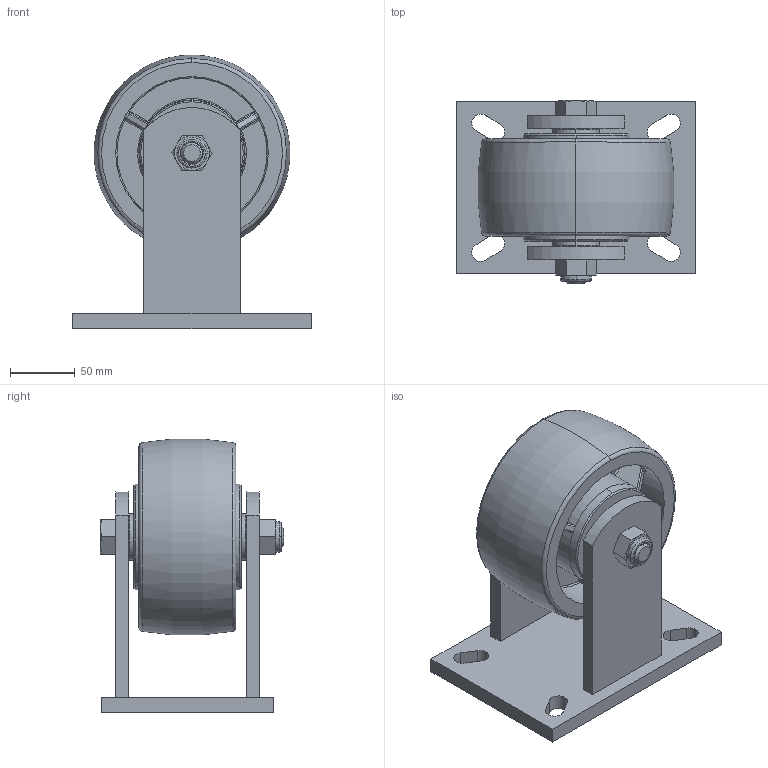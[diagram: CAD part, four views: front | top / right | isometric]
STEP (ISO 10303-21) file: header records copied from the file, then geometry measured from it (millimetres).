
FILE_DESCRIPTION (( 'STEP AP214' ), '1' );
FILE_NAME ('93106-936-26 ¶¨Ïò.STEP', '2019-12-26T04:52:59', ( 'Owner' ), ( 'Organization' ), 'SwSTEP 2.0', 'SolidWorks 2014', '' );
FILE_SCHEMA (( 'AUTOMOTIVE_DESIGN' ));
Length unit declared in the file: millimetre
Products named in the file (6): 936-86T; 930c00 隅殤侐源; 936c10; 930-34; 930-33; 93106-936-26 隅砃
Assembly tree (6 placements, depth 2):
  93106-936-26 隅砃
    930c00 隅殤侐源
    936c10  x2
    930-33
    930-34
    936-86T
Bounding box: 184 x 142 x 211.66 mm (x, y, z)
Volume: 1552598.6 mm3; surface area: 243636.7 mm2
Topology: 6 solids, 6 shells, 345 faces, 879 edges, 554 vertices
Faces by surface type: cylinder 140, bspline 69, plane 68, cone 40, torus 28
Entity records: 288760 total; most frequent: CARTESIAN_POINT 281192, ORIENTED_EDGE 1722, DIRECTION 1229, EDGE_CURVE 861, VERTEX_POINT 542, AXIS2_PLACEMENT_3D 476, B_SPLINE_CURVE_WITH_KNOTS 383, EDGE_LOOP 359
